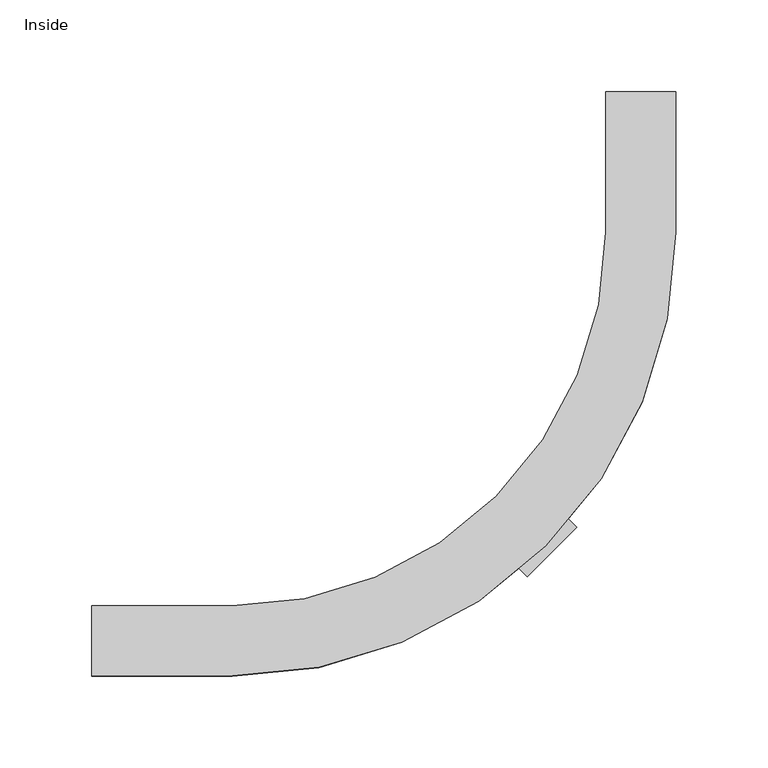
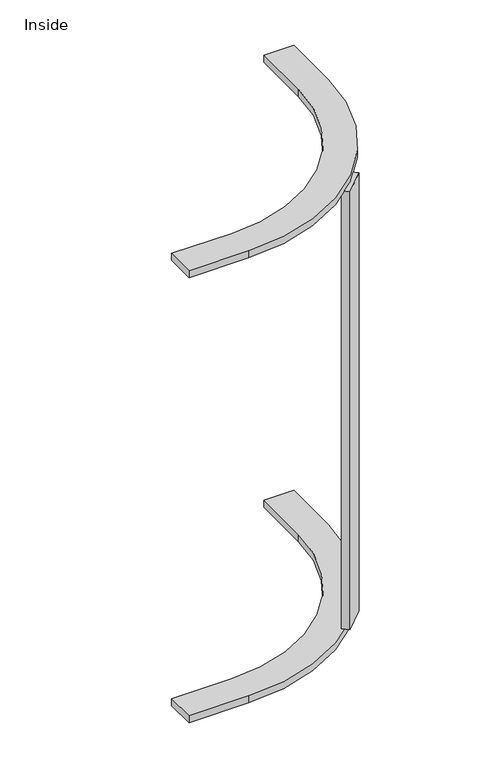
"""IFC4 building model written with IfcOpenShell, lengths in millimetres: cable carrier fitting geometry, Cable_Tray_Fitting-Bend-Chatsworth-Vertical : Inside."""

from ifc_helpers import new_model, si_unit, point, frame, frame_2d, origin, place, context, project, spatial, polyline, circle_curve, trimmed, segment, composite_curve, outline, extrude, source, transform, mapped, element, save


def inside_2a2f5f30(model_context):
    return source(origin(), model_context, "Body", "SweptSolid", [
        extrude(outline(polyline([(-41.5223456, 68.4631139), (-34.7871535, 61.7279218), (-61.7279218, 34.7871535), (-68.4631139, 41.5223456), (-41.5223456, 68.4631139)])), frame((0.0, 0.0, -295.275), z_axis=(0.0, 0.0, 1.0), x_axis=(1.0, 0.0, 0.0)), (0.0, 0.0, 1.0), 590.55),
        extrude(outline(composite_curve([segment(polyline([(-298.45, -19.05), (-298.45, 19.05), (-222.25, 19.05)]), True, "CONTINUOUS"), segment(trimmed(circle_curve(frame_2d((-222.25, 222.25)), 203.2), [point((-222.25, 19.05))], [point((-19.05, 222.25))], True, "CARTESIAN"), True, "CONTINUOUS"), segment(polyline([(-19.05, 222.25), (-19.05, 298.45), (19.05, 298.45), (19.05, 222.25)]), True, "CONTINUOUS"), segment(trimmed(circle_curve(frame_2d((-222.25, 222.25)), 241.3), [point((19.05, 222.25))], [point((-222.25, -19.05))], False, "CARTESIAN"), True, "CONTINUOUS"), segment(polyline([(-222.25, -19.05), (-298.45, -19.05)]), True, "CONTINUOUS")], self_intersect=False)), frame((0.0, 0.0, 295.275), z_axis=(0.0, 0.0, 1.0), x_axis=(1.0, 0.0, 0.0)), (0.0, 0.0, 1.0), 9.525),
        extrude(outline(composite_curve([segment(polyline([(-298.45, -19.05), (-298.45, 19.05), (-222.25, 19.05)]), True, "CONTINUOUS"), segment(trimmed(circle_curve(frame_2d((-222.25, 222.25)), 203.2), [point((-222.25, 19.05))], [point((-19.05, 222.25))], True, "CARTESIAN"), True, "CONTINUOUS"), segment(polyline([(-19.05, 222.25), (-19.05, 298.45), (19.05, 298.45), (19.05, 222.25)]), True, "CONTINUOUS"), segment(trimmed(circle_curve(frame_2d((-222.25, 222.25)), 241.3), [point((19.05, 222.25))], [point((-222.25, -19.05))], False, "CARTESIAN"), True, "CONTINUOUS"), segment(polyline([(-222.25, -19.05), (-298.45, -19.05)]), True, "CONTINUOUS")], self_intersect=False)), frame((0.0, 0.0, -304.8), z_axis=(0.0, 0.0, 1.0), x_axis=(1.0, 0.0, 0.0)), (0.0, 0.0, 1.0), 9.525),
    ])


if __name__ == "__main__":
    model = new_model("IFC4")
    model_context = context("Model", 3, world=origin())
    ifc_project = project(units=[si_unit("LENGTHUNIT", "METRE", prefix="MILLI")], contexts=[model_context])
    site = spatial("IfcSite", under=ifc_project)
    building = spatial("IfcBuilding", under=site)
    placement = place(None, origin())
    inside_shape = inside_2a2f5f30(model_context)
    element("IfcCableCarrierFitting", 1, ObjectType="Cable_Tray_Fitting-Bend-Chatsworth-Vertical : Inside", at=placement, inside=building, context=model_context, shape_type="MappedRepresentation", body=[
        mapped(inside_shape, transform((0.0, 0.0, 0.0), x_axis=(1.0, 0.0, 0.0), y_axis=(0.0, 1.0, 0.0), z_axis=(0.0, 0.0, 1.0))),
    ])
    save(model, "model.ifc")
